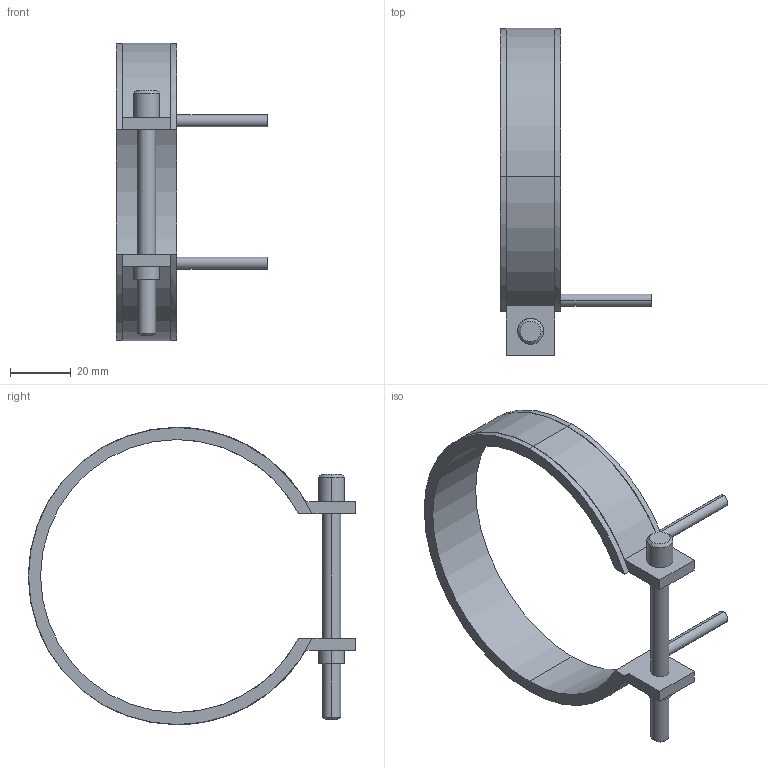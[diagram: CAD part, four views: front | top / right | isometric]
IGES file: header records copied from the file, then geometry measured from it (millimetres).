
Start section: START RECORD GO HERE.
Global section: file name: 14090020.igs; native system: DASSAULT SYSTEMES CATIA V5 R20 - www.3ds.com; preprocessor: CATIA Version 5 Release 20 ; author: Utente; organization: NB04-ASUS; date: 20210406.181402; units: millimetre
Bounding box: 50 x 108.1 x 98.2 mm (x, y, z)
Surface area: 15755.6 mm2 (no closed solid volume)
Topology: 0 solids, 0 shells, 45 faces, 232 edges, 232 vertices
Faces by surface type: revolution 28, plane 17
